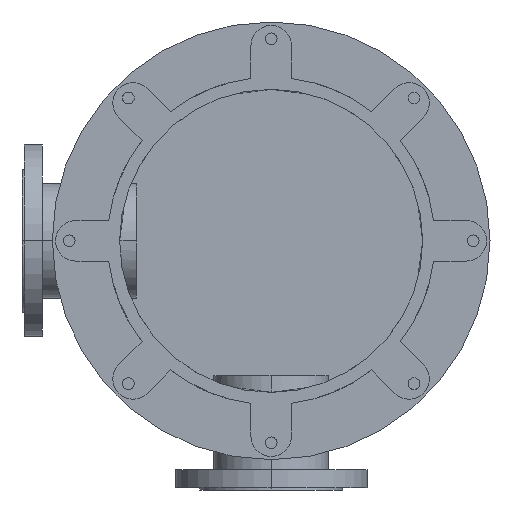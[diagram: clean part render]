
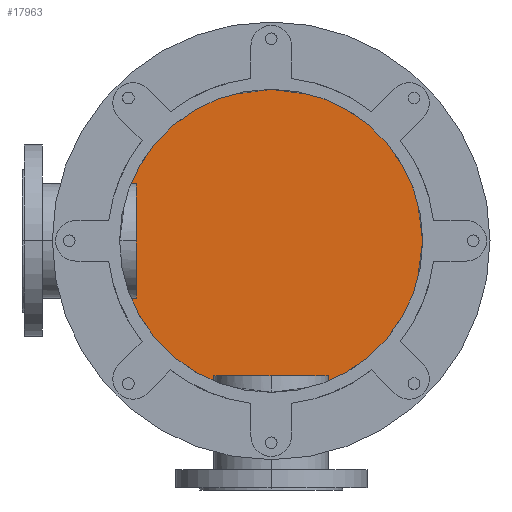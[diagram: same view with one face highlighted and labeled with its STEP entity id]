
A CAD part, front view. The second image highlights one B-rep face of the part: STEP entity #17963.
In plain terms, the highlighted planar face has unit normal (0, -1, 0).
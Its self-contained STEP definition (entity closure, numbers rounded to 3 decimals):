
#2844=CARTESIAN_POINT('',(0.,1172.,0.));
#2845=DIRECTION('',(0.,-1.,0.));
#2846=DIRECTION('',(0.,0.,-1.));
#2847=AXIS2_PLACEMENT_3D('',#2844,#2845,#2846);
#3011=CARTESIAN_POINT('',(0.,1172.,0.));
#3012=DIRECTION('',(0.,-1.,0.));
#3013=DIRECTION('',(0.,0.,1.));
#3014=AXIS2_PLACEMENT_3D('',#3011,#3012,#3013);
#9171=CARTESIAN_POINT('',(0.,1172.,240.));
#9172=CARTESIAN_POINT('',(0.,1172.,-240.));
#9173=VERTEX_POINT('',#9171);
#9174=VERTEX_POINT('',#9172);
#17954=CARTESIAN_POINT('',(0.,1172.,0.));
#17955=DIRECTION('',(0.,1.,0.));
#17956=DIRECTION('',(0.,0.,-1.));
#17957=AXIS2_PLACEMENT_3D('',#17954,#17955,#17956);
#17958=PLANE('',#17957);
#17959=ORIENTED_EDGE('',*,*,#14441,.F.);
#17960=ORIENTED_EDGE('',*,*,#14301,.F.);
#17961=EDGE_LOOP('',(#17959,#17960));
#17962=FACE_OUTER_BOUND('',#17961,.F.);
#17963=ADVANCED_FACE('',(#17962),#17958,.F.);
#2848=CIRCLE('',#2847,240.);
#3015=CIRCLE('',#3014,240.);
#14301=EDGE_CURVE('',#9174,#9173,#2848,.T.);
#14441=EDGE_CURVE('',#9173,#9174,#3015,.T.);
